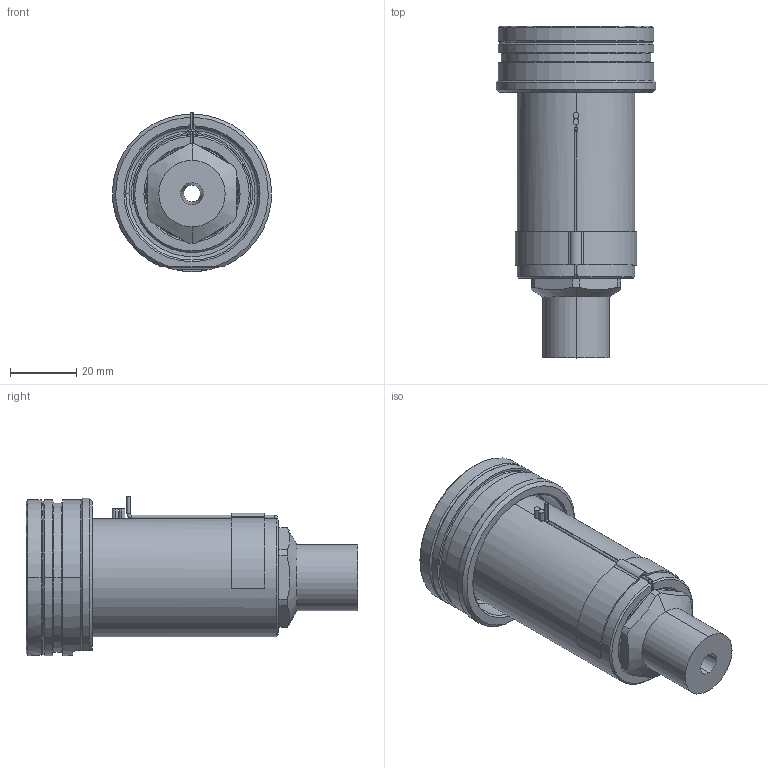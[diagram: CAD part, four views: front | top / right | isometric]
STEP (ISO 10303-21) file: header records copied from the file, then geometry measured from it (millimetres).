
FILE_DESCRIPTION((''),'2;1');
FILE_NAME('EO16_VG-FBE_STD_070_SW','2024-02-19T14:09:07',('sundharh'),(''),'CREO PARAMETRIC BY PTC INC, 2023154','CREO PARAMETRIC BY PTC INC, 2023154','');
FILE_SCHEMA(('CONFIG_CONTROL_DESIGN'));
Length unit declared in the file: millimetre
Products named in the file (1): EO16_VG-FBE_STD_070_SW
Bounding box: 47.97 x 100 x 48 mm (x, y, z)
Volume: 79641.6 mm3; surface area: 23810.9 mm2
Topology: 1 solids, 1 shells, 199 faces, 478 edges, 288 vertices
Faces by surface type: cylinder 72, plane 47, cone 41, torus 24, bspline 13, sphere 2
Entity records: 6626 total; most frequent: CARTESIAN_POINT 1904, DIRECTION 1064, ORIENTED_EDGE 944, EDGE_CURVE 472, AXIS2_PLACEMENT_3D 446, VERTEX_POINT 288, CIRCLE 260, EDGE_LOOP 216
